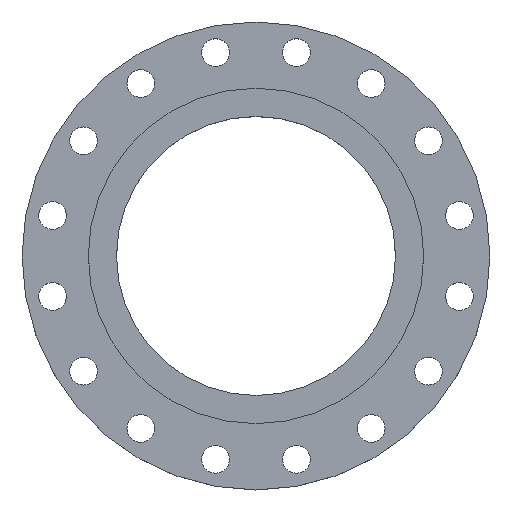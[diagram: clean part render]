
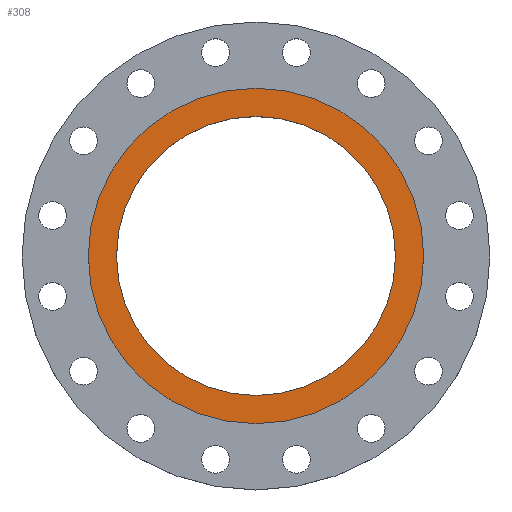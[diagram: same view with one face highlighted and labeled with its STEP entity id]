
A CAD part, top view. The second image highlights one B-rep face of the part: STEP entity #308.
In plain terms, the highlighted planar face has unit normal (0, 0, 1).
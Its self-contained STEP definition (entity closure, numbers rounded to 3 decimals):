
#35 = AXIS2_PLACEMENT_3D ( 'NONE', #1417, #1416, #1415 ) ;
#49 = VERTEX_POINT ( 'NONE', #953 ) ;
#65 = AXIS2_PLACEMENT_3D ( 'NONE', #692, #690, #688 ) ;
#124 = AXIS2_PLACEMENT_3D ( 'NONE', #1488, #1482, #1480 ) ;
#145 = CIRCLE ( 'NONE', #35, 236.5 ) ;
#150 = CIRCLE ( 'NONE', #680, 236.5 ) ;
#228 = EDGE_CURVE ( 'NONE', #1210, #49, #1200, .T. ) ;
#308 = ADVANCED_FACE ( 'NONE', ( #1492, #1491 ), #1490, .T. ) ;
#333 = CARTESIAN_POINT ( 'NONE',  ( -236.5, 0., 0. ) ) ;
#335 = EDGE_CURVE ( 'NONE', #49, #1210, #625, .T. ) ;
#466 = EDGE_CURVE ( 'NONE', #1565, #1004, #145, .T. ) ;
#504 = EDGE_CURVE ( 'NONE', #1004, #1565, #150, .T. ) ;
#550 = CARTESIAN_POINT ( 'NONE',  ( -196.752, 0., 0. ) ) ;
#625 = CIRCLE ( 'NONE', #626, 196.752 ) ;
#626 = AXIS2_PLACEMENT_3D ( 'NONE', #1471, #1470, #1468 ) ;
#680 = AXIS2_PLACEMENT_3D ( 'NONE', #1385, #1383, #1381 ) ;
#688 = DIRECTION ( 'NONE',  ( 1., 0., 0. ) ) ;
#690 = DIRECTION ( 'NONE',  ( 0., 0., 1. ) ) ;
#692 = CARTESIAN_POINT ( 'NONE',  ( 0., 0., 0. ) ) ;
#953 = CARTESIAN_POINT ( 'NONE',  ( 196.752, 0., 0. ) ) ;
#1004 = VERTEX_POINT ( 'NONE', #1134 ) ;
#1015 = ORIENTED_EDGE ( 'NONE', *, *, #335, .F. ) ;
#1016 = ORIENTED_EDGE ( 'NONE', *, *, #228, .F. ) ;
#1021 = ORIENTED_EDGE ( 'NONE', *, *, #466, .F. ) ;
#1025 = ORIENTED_EDGE ( 'NONE', *, *, #504, .F. ) ;
#1079 = EDGE_LOOP ( 'NONE', ( #1015, #1016 ) ) ;
#1134 = CARTESIAN_POINT ( 'NONE',  ( 236.5, 0., 0. ) ) ;
#1195 = EDGE_LOOP ( 'NONE', ( #1021, #1025 ) ) ;
#1200 = CIRCLE ( 'NONE', #65, 196.752 ) ;
#1210 = VERTEX_POINT ( 'NONE', #550 ) ;
#1381 = DIRECTION ( 'NONE',  ( -1., 0., 0. ) ) ;
#1383 = DIRECTION ( 'NONE',  ( 0., 0., -1. ) ) ;
#1385 = CARTESIAN_POINT ( 'NONE',  ( 0., 0., 0. ) ) ;
#1415 = DIRECTION ( 'NONE',  ( -1., 0., 0. ) ) ;
#1416 = DIRECTION ( 'NONE',  ( 0., 0., -1. ) ) ;
#1417 = CARTESIAN_POINT ( 'NONE',  ( 0., 0., 0. ) ) ;
#1468 = DIRECTION ( 'NONE',  ( 1., 0., 0. ) ) ;
#1470 = DIRECTION ( 'NONE',  ( 0., 0., 1. ) ) ;
#1471 = CARTESIAN_POINT ( 'NONE',  ( 0., 0., 0. ) ) ;
#1480 = DIRECTION ( 'NONE',  ( 1., 0., 0. ) ) ;
#1482 = DIRECTION ( 'NONE',  ( 0., 0., 1. ) ) ;
#1488 = CARTESIAN_POINT ( 'NONE',  ( 0., 0., 0. ) ) ;
#1490 = PLANE ( 'NONE',  #124 ) ;
#1491 = FACE_OUTER_BOUND ( 'NONE', #1195, .T. ) ;
#1492 = FACE_BOUND ( 'NONE', #1079, .T. ) ;
#1565 = VERTEX_POINT ( 'NONE', #333 ) ;
